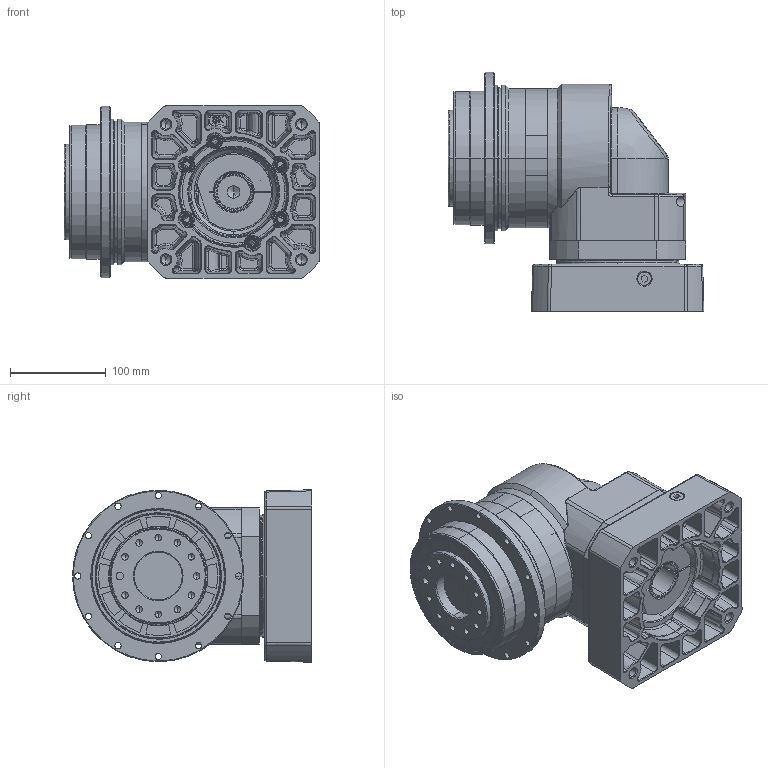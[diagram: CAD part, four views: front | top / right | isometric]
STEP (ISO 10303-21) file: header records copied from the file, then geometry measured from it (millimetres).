
FILE_DESCRIPTION (( 'STEP AP214' ), '1' );
FILE_NAME ('EVT140-L1-P1 35-114.3-200-M12-82.STEP', '2025-02-18T06:53:00', ( '微软用户' ), ( '微软中国' ), 'SwSTEP 2.0', 'SolidWorks 2021', '' );
FILE_SCHEMA (( 'AUTOMOTIVE_DESIGN' ));
Length unit declared in the file: millimetre
Products named in the file (4): EVT140D-L1-35-114.3-200-M12-82; EVT140-L1-P1 35-114.3-200-M12-82; 20-EVT140F眻褒眊极_stp.stp; EVT140D-L1-2-110-145-M8-72
Assembly tree (9 placements, depth 2):
  EVT140-L1-P1 35-114.3-200-M12-82
    EVT140D-L1-35-114.3-200-M12-82
    20-EVT140F眻褒眊极_stp.stp
    EVT140D-L1-2-110-145-M8-72  x7
Bounding box: 267 x 249.5 x 180 mm (x, y, z)
Volume: 1098479.8 mm3; surface area: 714555.7 mm2
Topology: 1 solids, 33 shells, 2041 faces, 4915 edges, 2979 vertices
Faces by surface type: bspline 637, cylinder 564, plane 468, cone 318, torus 54
Full cylindrical faces by diameter (mm): 17 x1
Entity records: 81722 total; most frequent: CARTESIAN_POINT 41672, ORIENTED_EDGE 8957, DIRECTION 7318, EDGE_CURVE 4510, AXIS2_PLACEMENT_3D 2965, VERTEX_POINT 2758, EDGE_LOOP 2127, FACE_OUTER_BOUND 1903
